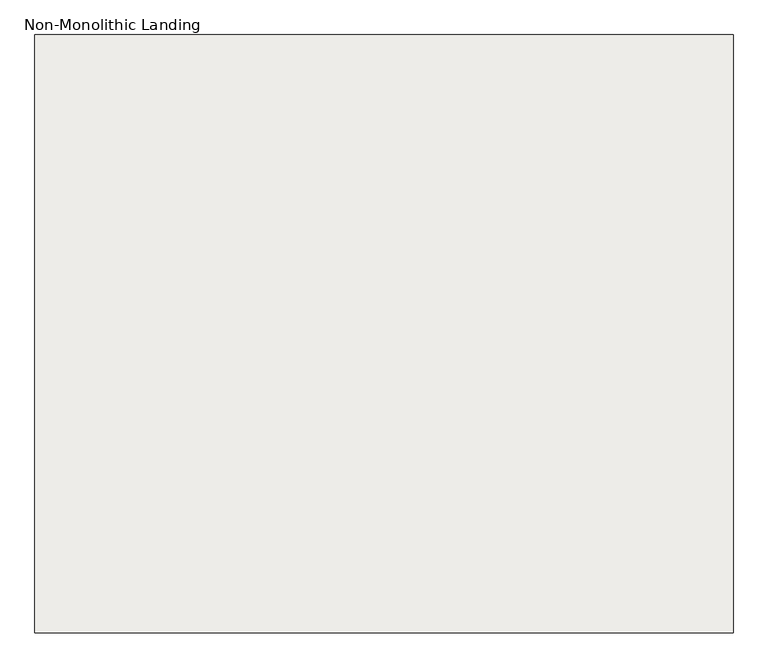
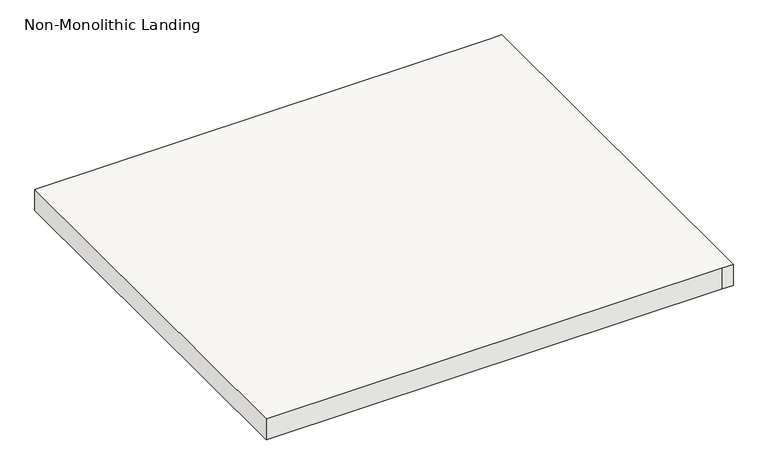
"""IFC4 building model written with IfcOpenShell, lengths in millimetres: slab geometry, Non-Monolithic Landing."""

from ifc_helpers import new_model, si_unit, frame, origin, place, context, project, spatial, polyline, outline, extrude, source, transform, mapped, element, save


def non_monolithic_landing_6114cc82(model_context):
    return source(origin(), model_context, "Body", "SweptSolid", [
        extrude(outline(polyline([(5276.9721922, 33593.5406645), (6318.3721922, 33593.5406645), (6343.7721922, 33593.5406645), (6343.7721922, 32679.1406645), (6318.3721922, 32679.1406645), (5276.9721922, 32679.1406645), (5276.9721922, 33593.5406645)])), frame((0.0, 0.0, 2069.5478261), z_axis=(0.0, 0.0, 1.0), x_axis=(1.0, 0.0, 0.0)), (0.0, 0.0, 1.0), 50.8),
    ])


if __name__ == "__main__":
    model = new_model("IFC4")
    model_context = context("Model", 3, world=origin())
    ifc_project = project(units=[si_unit("LENGTHUNIT", "METRE", prefix="MILLI")], contexts=[model_context])
    site = spatial("IfcSite", under=ifc_project)
    building = spatial("IfcBuilding", under=site)
    placement = place(None, origin())
    non_monolithic_landing_shape = non_monolithic_landing_6114cc82(model_context)
    element("IfcSlab", 1, ObjectType="Non-Monolithic Landing", at=placement, inside=building, context=model_context, shape_type="MappedRepresentation", body=[
        mapped(non_monolithic_landing_shape, transform((0.0, 0.0, 0.0), x_axis=(1.0, 0.0, 0.0), y_axis=(0.0, 1.0, 0.0), z_axis=(0.0, 0.0, 1.0))),
    ])
    save(model, "model.ifc")
